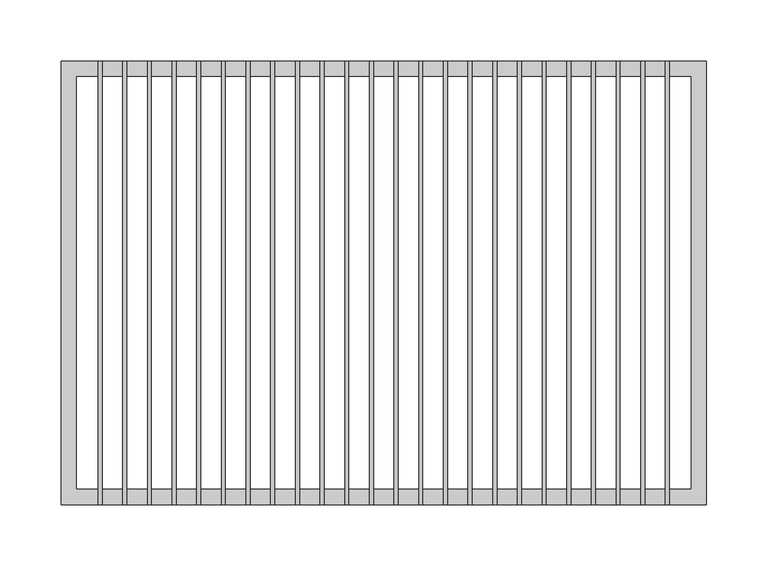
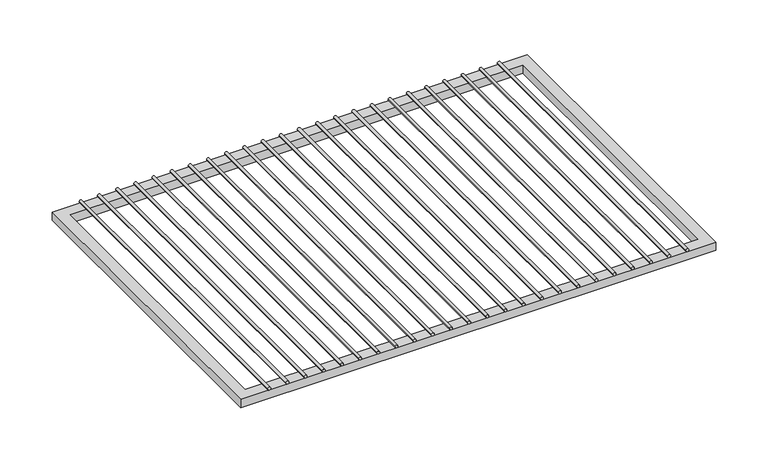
"""IFC4 building model written with IfcOpenShell, lengths in millimetres: furniture geometry, HermanMiller_CoStruc_CO252_CWireShelf : 14D x 20W."""

import ifcopenshell
import ifcopenshell.guid

model = None  # the IFC model being written
_history = None  # IfcOwnerHistory: only IFC2X3 demands one
_inside = {}  # id of a spatial element -> (the spatial element, [elements in it])
_under = {}  # id of a project, library or spatial element -> (it, [spatial elements below it])
_declared = {}  # id of a project -> (the project, [libraries it declares])
_typed = {}  # id of a type object -> (the type object, [elements of that type])
_made_of = {}  # id of a material, layer set ... -> (it, [elements and type objects made of it])


def new_model(schema):
    """Start an empty IFC model of exactly this schema.

    Asked for "IFC4X3", IfcOpenShell would pick the latest addendum, in which some entities
    have other attributes; the version numbers below select the first issue.
    IFC2X3 requires an IfcOwnerHistory on every rooted entity: one is made here for all.
    """
    global model, _history
    if schema == "IFC4X3":
        model = ifcopenshell.file(schema_version=(4, 3, 0, 0))
    else:
        model = ifcopenshell.file(schema=schema)
    _inside.clear()
    _under.clear()
    _declared.clear()
    _typed.clear()
    _made_of.clear()
    _history = None
    if model.schema == "IFC2X3":
        org = make("IfcOrganization", Name="unknown")
        user = make(
            "IfcPersonAndOrganization",
            ThePerson=make("IfcPerson", FamilyName="unknown"),
            TheOrganization=org,
        )
        app = make(
            "IfcApplication",
            ApplicationDeveloper=org,
            Version="unknown",
            ApplicationFullName="unknown",
            ApplicationIdentifier="unknown",
        )
        _history = make(
            "IfcOwnerHistory",
            OwningUser=user,
            OwningApplication=app,
            ChangeAction="ADDED",
            CreationDate=0,
        )
    return model


def make(cls, **values):
    """One entity of the class cls with the attributes given. An attribute that is None is left unset."""
    return model.create_entity(
        cls, **{name: value for name, value in values.items() if value is not None}
    )


def rooted(cls, **values):
    """An entity with a GlobalId (a new one), such as an element, a storey or a relation."""
    return make(cls, GlobalId=ifcopenshell.guid.new(), OwnerHistory=_history, **values)


def si_unit(unit_type, name, prefix=None):
    """IfcSIUnit, for example si_unit("LENGTHUNIT", "METRE", prefix="MILLI")."""
    return make("IfcSIUnit", UnitType=unit_type, Prefix=prefix, Name=name)


def assignment(units):
    """IfcUnitAssignment: the units of a project."""
    return None if units is None else make("IfcUnitAssignment", Units=units)


def point(xyz):
    """IfcCartesianPoint."""
    return None if xyz is None else make("IfcCartesianPoint", Coordinates=xyz)


def direction(xyz):
    """IfcDirection."""
    return None if xyz is None else make("IfcDirection", DirectionRatios=xyz)


def frame(location, z_axis=None, x_axis=None):
    """IfcAxis2Placement3D, a coordinate frame: its origin and axes. An axis left out is left unset."""
    return make(
        "IfcAxis2Placement3D",
        Location=point(location),
        Axis=direction(z_axis),
        RefDirection=direction(x_axis),
    )


def frame_2d(location, x_axis=None):
    """IfcAxis2Placement2D, a coordinate frame in the plane: its origin and x axis."""
    return make(
        "IfcAxis2Placement2D", Location=point(location), RefDirection=direction(x_axis)
    )


def origin():
    """The frame at (0, 0, 0) with its axes left unset."""
    return frame((0.0, 0.0, 0.0))


def place(relative_to, where):
    """IfcLocalPlacement: puts the frame where relative to a parent placement (None: the world)."""
    return make(
        "IfcLocalPlacement", PlacementRelTo=relative_to, RelativePlacement=where
    )


def context(
    kind, dimensions, precision=None, world=None, true_north=None, identifier=None
):
    """IfcGeometricRepresentationContext, for example the 3D "Model" context."""
    return make(
        "IfcGeometricRepresentationContext",
        ContextIdentifier=identifier,
        ContextType=kind,
        CoordinateSpaceDimension=dimensions,
        Precision=precision,
        WorldCoordinateSystem=world,
        TrueNorth=true_north,
    )


def project(units=None, contexts=None):
    """IfcProject with its units and contexts."""
    return rooted(
        "IfcProject",
        Name="project",
        RepresentationContexts=contexts,
        UnitsInContext=assignment(units),
    )


def spatial(cls, under=None, at=None, **own):
    """A site, building, storey or space (cls), placed at a placement, below another one or the project."""
    s = rooted(cls, ObjectPlacement=at, **own)
    if under is not None:
        _under.setdefault(under.id(), (under, []))[1].append(s)
    return s


def polyline(points):
    """IfcPolyline through the points."""
    return make("IfcPolyline", Points=[point(p) for p in points])


def circle_curve(where, radius):
    """IfcCircle in the frame where."""
    return make("IfcCircle", Position=where, Radius=radius)


def trimmed(basis, trim1, trim2, sense, master):
    """IfcTrimmedCurve: the piece of a basis curve between two trims."""
    return make(
        "IfcTrimmedCurve",
        BasisCurve=basis,
        Trim1=trim1,
        Trim2=trim2,
        SenseAgreement=sense,
        MasterRepresentation=master,
    )


def segment(curve, same_sense, transition):
    """IfcCompositeCurveSegment."""
    return make(
        "IfcCompositeCurveSegment",
        Transition=transition,
        SameSense=same_sense,
        ParentCurve=curve,
    )


def composite_curve(segments, self_intersect=None):
    """IfcCompositeCurve: segments joined end to end."""
    return make("IfcCompositeCurve", Segments=segments, SelfIntersect=self_intersect)


def outline(outer, holes=None, kind="AREA"):
    """IfcArbitraryClosedProfileDef: a profile drawn as a closed curve; with holes, ...WithVoids."""
    if holes is None:
        return make("IfcArbitraryClosedProfileDef", ProfileType=kind, OuterCurve=outer)
    return make(
        "IfcArbitraryProfileDefWithVoids",
        ProfileType=kind,
        OuterCurve=outer,
        InnerCurves=holes,
    )


def extrude(swept, where, along, depth):
    """IfcExtrudedAreaSolid: the profile swept, set in the frame where, extruded along a direction by depth."""
    return make(
        "IfcExtrudedAreaSolid",
        SweptArea=swept,
        Position=where,
        ExtrudedDirection=direction(along),
        Depth=depth,
    )


def shape(context_of_items, identifier, shape_type, items):
    """IfcShapeRepresentation: the items that make up one representation, for example the "Body"."""
    return make(
        "IfcShapeRepresentation",
        ContextOfItems=context_of_items,
        RepresentationIdentifier=identifier,
        RepresentationType=shape_type,
        Items=items,
    )


def source(mapping_origin, context_of_items, identifier, shape_type, items):
    """IfcRepresentationMap: a shape defined once, which mapped items show again and again."""
    return make(
        "IfcRepresentationMap",
        MappingOrigin=mapping_origin,
        MappedRepresentation=shape(context_of_items, identifier, shape_type, items),
    )


def transform(
    local_origin,
    x_axis=None,
    y_axis=None,
    z_axis=None,
    scale=None,
    scale2=None,
    scale3=None,
    uniform=True,
):
    """IfcCartesianTransformationOperator3D, or its non-uniform kind. x_axis, y_axis, z_axis: its Axis1, 2, 3."""
    if uniform:
        return make(
            "IfcCartesianTransformationOperator3D",
            Axis1=direction(x_axis),
            Axis2=direction(y_axis),
            LocalOrigin=point(local_origin),
            Scale=scale,
            Axis3=direction(z_axis),
        )
    return make(
        "IfcCartesianTransformationOperator3DnonUniform",
        Axis1=direction(x_axis),
        Axis2=direction(y_axis),
        LocalOrigin=point(local_origin),
        Scale=scale,
        Axis3=direction(z_axis),
        Scale2=scale2,
        Scale3=scale3,
    )


def mapped(mapping_source, mapping_target):
    """IfcMappedItem: shows the shape of a source again, moved by a transform."""
    return make(
        "IfcMappedItem", MappingSource=mapping_source, MappingTarget=mapping_target
    )


def made_of(thing, what):
    """Note that an element or type object is made of a material, layer set ...; save() writes the relation."""
    if what is not None:
        _made_of.setdefault(what.id(), (what, []))[1].append(thing)
    return thing


def element(
    cls,
    number,
    at=None,
    inside=None,
    cuts=None,
    type_object=None,
    material=None,
    context=None,
    identifier="Body",
    shape_type=None,
    held_by="IfcProductDefinitionShape",
    body=None,
    shapes=None,
    **own,
):
    """One element of the class cls, such as IfcWall. Its Tag is "e" and its number.

    at: its placement. inside: the storey or other place that contains it. cuts: it is an
    opening in that element (IfcRelVoidsElement). A single representation is given by context,
    identifier, shape_type and body (its items); several are given by shapes. held_by: the class
    of the entity that holds the representations. save() writes the other relations.
    """
    e = rooted(cls, Tag="e%d" % number, ObjectPlacement=at, **own)
    if body is not None:
        shapes = [shape(context, identifier, shape_type, body)]
    if shapes is not None:
        e.Representation = make(held_by, Representations=shapes)
    if inside is not None:
        _inside.setdefault(inside.id(), (inside, []))[1].append(e)
    if cuts is not None:
        rooted(
            "IfcRelVoidsElement", RelatingBuildingElement=cuts, RelatedOpeningElement=e
        )
    if type_object is not None:
        _typed.setdefault(type_object.id(), (type_object, []))[1].append(e)
    return made_of(e, material)


def aggregate(whole, parts):
    """IfcRelAggregates: a whole, such as a stair, and the parts it consists of."""
    return rooted("IfcRelAggregates", RelatingObject=whole, RelatedObjects=parts)


def save(model, path):
    """Write the relations noted so far, then the file.

    IfcRelAggregates (storeys below a building ...), IfcRelContainedInSpatialStructure (elements
    in a storey), IfcRelDefinesByType, IfcRelAssociatesMaterial and IfcRelDeclares: one each for
    every whole, place, type object, material and project.
    """
    for whole, parts in _under.values():
        aggregate(whole, parts)
    for where, things in _inside.values():
        rooted(
            "IfcRelContainedInSpatialStructure",
            RelatedElements=things,
            RelatingStructure=where,
        )
    for kind, things in _typed.values():
        rooted("IfcRelDefinesByType", RelatedObjects=things, RelatingType=kind)
    for what, things in _made_of.values():
        rooted("IfcRelAssociatesMaterial", RelatedObjects=things, RelatingMaterial=what)
    for by, libraries in _declared.values():
        rooted("IfcRelDeclares", RelatingContext=by, RelatedDefinitions=libraries)
    model.write(path)


def furniture_14b667b5(model_context):
    return source(origin(), model_context, "Body", "SweptSolid", [
        extrude(outline(composite_curve([segment(trimmed(circle_curve(frame_2d((1236.6625, -211.6206522)), 1.5875), [point((1236.6625, -213.2081522))], [point((1236.6625, -210.0331522))], False, "CARTESIAN"), True, "CONTINUOUS"), segment(trimmed(circle_curve(frame_2d((1236.6625, -211.6206522)), 1.5875), [point((1236.6625, -210.0331522))], [point((1236.6625, -213.2081522))], False, "CARTESIAN"), True, "CONTINUOUS")], self_intersect=False)), frame((0.0, -180.975, 0.0), z_axis=(0.0, 1.0, 0.0), x_axis=(0.0, 0.0, 1.0)), (0.0, 0.0, 1.0), 361.95),
        extrude(outline(composite_curve([segment(trimmed(circle_curve(frame_2d((1236.6625, -191.4663043)), 1.5875), [point((1236.6625, -193.0538043))], [point((1236.6625, -189.8788043))], False, "CARTESIAN"), True, "CONTINUOUS"), segment(trimmed(circle_curve(frame_2d((1236.6625, -191.4663043)), 1.5875), [point((1236.6625, -189.8788043))], [point((1236.6625, -193.0538043))], False, "CARTESIAN"), True, "CONTINUOUS")], self_intersect=False)), frame((0.0, -180.975, 0.0), z_axis=(0.0, 1.0, 0.0), x_axis=(0.0, 0.0, 1.0)), (0.0, 0.0, 1.0), 361.95),
        extrude(outline(composite_curve([segment(trimmed(circle_curve(frame_2d((1236.6625, -171.3119565)), 1.5875), [point((1236.6625, -172.8994565))], [point((1236.6625, -169.7244565))], False, "CARTESIAN"), True, "CONTINUOUS"), segment(trimmed(circle_curve(frame_2d((1236.6625, -171.3119565)), 1.5875), [point((1236.6625, -169.7244565))], [point((1236.6625, -172.8994565))], False, "CARTESIAN"), True, "CONTINUOUS")], self_intersect=False)), frame((0.0, -180.975, 0.0), z_axis=(0.0, 1.0, 0.0), x_axis=(0.0, 0.0, 1.0)), (0.0, 0.0, 1.0), 361.95),
        extrude(outline(composite_curve([segment(trimmed(circle_curve(frame_2d((1236.6625, -151.1576087)), 1.5875), [point((1236.6625, -152.7451087))], [point((1236.6625, -149.5701087))], False, "CARTESIAN"), True, "CONTINUOUS"), segment(trimmed(circle_curve(frame_2d((1236.6625, -151.1576087)), 1.5875), [point((1236.6625, -149.5701087))], [point((1236.6625, -152.7451087))], False, "CARTESIAN"), True, "CONTINUOUS")], self_intersect=False)), frame((0.0, -180.975, 0.0), z_axis=(0.0, 1.0, 0.0), x_axis=(0.0, 0.0, 1.0)), (0.0, 0.0, 1.0), 361.95),
        extrude(outline(composite_curve([segment(trimmed(circle_curve(frame_2d((1236.6625, -131.0032609)), 1.5875), [point((1236.6625, -132.5907609))], [point((1236.6625, -129.4157609))], False, "CARTESIAN"), True, "CONTINUOUS"), segment(trimmed(circle_curve(frame_2d((1236.6625, -131.0032609)), 1.5875), [point((1236.6625, -129.4157609))], [point((1236.6625, -132.5907609))], False, "CARTESIAN"), True, "CONTINUOUS")], self_intersect=False)), frame((0.0, -180.975, 0.0), z_axis=(0.0, 1.0, 0.0), x_axis=(0.0, 0.0, 1.0)), (0.0, 0.0, 1.0), 361.95),
        extrude(outline(composite_curve([segment(trimmed(circle_curve(frame_2d((1236.6625, -110.848913)), 1.5875), [point((1236.6625, -112.436413))], [point((1236.6625, -109.261413))], False, "CARTESIAN"), True, "CONTINUOUS"), segment(trimmed(circle_curve(frame_2d((1236.6625, -110.848913)), 1.5875), [point((1236.6625, -109.261413))], [point((1236.6625, -112.436413))], False, "CARTESIAN"), True, "CONTINUOUS")], self_intersect=False)), frame((0.0, -180.975, 0.0), z_axis=(0.0, 1.0, 0.0), x_axis=(0.0, 0.0, 1.0)), (0.0, 0.0, 1.0), 361.95),
        extrude(outline(composite_curve([segment(trimmed(circle_curve(frame_2d((1236.6625, -90.6945652)), 1.5875), [point((1236.6625, -92.2820652))], [point((1236.6625, -89.1070652))], False, "CARTESIAN"), True, "CONTINUOUS"), segment(trimmed(circle_curve(frame_2d((1236.6625, -90.6945652)), 1.5875), [point((1236.6625, -89.1070652))], [point((1236.6625, -92.2820652))], False, "CARTESIAN"), True, "CONTINUOUS")], self_intersect=False)), frame((0.0, -180.975, 0.0), z_axis=(0.0, 1.0, 0.0), x_axis=(0.0, 0.0, 1.0)), (0.0, 0.0, 1.0), 361.95),
        extrude(outline(composite_curve([segment(trimmed(circle_curve(frame_2d((1236.6625, -70.5402174)), 1.5875), [point((1236.6625, -72.1277174))], [point((1236.6625, -68.9527174))], False, "CARTESIAN"), True, "CONTINUOUS"), segment(trimmed(circle_curve(frame_2d((1236.6625, -70.5402174)), 1.5875), [point((1236.6625, -68.9527174))], [point((1236.6625, -72.1277174))], False, "CARTESIAN"), True, "CONTINUOUS")], self_intersect=False)), frame((0.0, -180.975, 0.0), z_axis=(0.0, 1.0, 0.0), x_axis=(0.0, 0.0, 1.0)), (0.0, 0.0, 1.0), 361.95),
        extrude(outline(composite_curve([segment(trimmed(circle_curve(frame_2d((1236.6625, -50.3858696)), 1.5875), [point((1236.6625, -51.9733696))], [point((1236.6625, -48.7983696))], False, "CARTESIAN"), True, "CONTINUOUS"), segment(trimmed(circle_curve(frame_2d((1236.6625, -50.3858696)), 1.5875), [point((1236.6625, -48.7983696))], [point((1236.6625, -51.9733696))], False, "CARTESIAN"), True, "CONTINUOUS")], self_intersect=False)), frame((0.0, -180.975, 0.0), z_axis=(0.0, 1.0, 0.0), x_axis=(0.0, 0.0, 1.0)), (0.0, 0.0, 1.0), 361.95),
        extrude(outline(composite_curve([segment(trimmed(circle_curve(frame_2d((1236.6625, -30.2315217)), 1.5875), [point((1236.6625, -31.8190217))], [point((1236.6625, -28.6440217))], False, "CARTESIAN"), True, "CONTINUOUS"), segment(trimmed(circle_curve(frame_2d((1236.6625, -30.2315217)), 1.5875), [point((1236.6625, -28.6440217))], [point((1236.6625, -31.8190217))], False, "CARTESIAN"), True, "CONTINUOUS")], self_intersect=False)), frame((0.0, -180.975, 0.0), z_axis=(0.0, 1.0, 0.0), x_axis=(0.0, 0.0, 1.0)), (0.0, 0.0, 1.0), 361.95),
        extrude(outline(composite_curve([segment(trimmed(circle_curve(frame_2d((1236.6625, -10.0771739)), 1.5875), [point((1236.6625, -11.6646739))], [point((1236.6625, -8.4896739))], False, "CARTESIAN"), True, "CONTINUOUS"), segment(trimmed(circle_curve(frame_2d((1236.6625, -10.0771739)), 1.5875), [point((1236.6625, -8.4896739))], [point((1236.6625, -11.6646739))], False, "CARTESIAN"), True, "CONTINUOUS")], self_intersect=False)), frame((0.0, -180.975, 0.0), z_axis=(0.0, 1.0, 0.0), x_axis=(0.0, 0.0, 1.0)), (0.0, 0.0, 1.0), 361.95),
        extrude(outline(composite_curve([segment(trimmed(circle_curve(frame_2d((1236.6625, 10.0771739)), 1.5875), [point((1236.6625, 8.4896739))], [point((1236.6625, 11.6646739))], False, "CARTESIAN"), True, "CONTINUOUS"), segment(trimmed(circle_curve(frame_2d((1236.6625, 10.0771739)), 1.5875), [point((1236.6625, 11.6646739))], [point((1236.6625, 8.4896739))], False, "CARTESIAN"), True, "CONTINUOUS")], self_intersect=False)), frame((0.0, -180.975, 0.0), z_axis=(0.0, 1.0, 0.0), x_axis=(0.0, 0.0, 1.0)), (0.0, 0.0, 1.0), 361.95),
        extrude(outline(composite_curve([segment(trimmed(circle_curve(frame_2d((1236.6625, 30.2315217)), 1.5875), [point((1236.6625, 28.6440217))], [point((1236.6625, 31.8190217))], False, "CARTESIAN"), True, "CONTINUOUS"), segment(trimmed(circle_curve(frame_2d((1236.6625, 30.2315217)), 1.5875), [point((1236.6625, 31.8190217))], [point((1236.6625, 28.6440217))], False, "CARTESIAN"), True, "CONTINUOUS")], self_intersect=False)), frame((0.0, -180.975, 0.0), z_axis=(0.0, 1.0, 0.0), x_axis=(0.0, 0.0, 1.0)), (0.0, 0.0, 1.0), 361.95),
        extrude(outline(composite_curve([segment(trimmed(circle_curve(frame_2d((1236.6625, 50.3858696)), 1.5875), [point((1236.6625, 48.7983696))], [point((1236.6625, 51.9733696))], False, "CARTESIAN"), True, "CONTINUOUS"), segment(trimmed(circle_curve(frame_2d((1236.6625, 50.3858696)), 1.5875), [point((1236.6625, 51.9733696))], [point((1236.6625, 48.7983696))], False, "CARTESIAN"), True, "CONTINUOUS")], self_intersect=False)), frame((0.0, -180.975, 0.0), z_axis=(0.0, 1.0, 0.0), x_axis=(0.0, 0.0, 1.0)), (0.0, 0.0, 1.0), 361.95),
        extrude(outline(composite_curve([segment(trimmed(circle_curve(frame_2d((1236.6625, 70.5402174)), 1.5875), [point((1236.6625, 68.9527174))], [point((1236.6625, 72.1277174))], False, "CARTESIAN"), True, "CONTINUOUS"), segment(trimmed(circle_curve(frame_2d((1236.6625, 70.5402174)), 1.5875), [point((1236.6625, 72.1277174))], [point((1236.6625, 68.9527174))], False, "CARTESIAN"), True, "CONTINUOUS")], self_intersect=False)), frame((0.0, -180.975, 0.0), z_axis=(0.0, 1.0, 0.0), x_axis=(0.0, 0.0, 1.0)), (0.0, 0.0, 1.0), 361.95),
        extrude(outline(composite_curve([segment(trimmed(circle_curve(frame_2d((1236.6625, 90.6945652)), 1.5875), [point((1236.6625, 89.1070652))], [point((1236.6625, 92.2820652))], False, "CARTESIAN"), True, "CONTINUOUS"), segment(trimmed(circle_curve(frame_2d((1236.6625, 90.6945652)), 1.5875), [point((1236.6625, 92.2820652))], [point((1236.6625, 89.1070652))], False, "CARTESIAN"), True, "CONTINUOUS")], self_intersect=False)), frame((0.0, -180.975, 0.0), z_axis=(0.0, 1.0, 0.0), x_axis=(0.0, 0.0, 1.0)), (0.0, 0.0, 1.0), 361.95),
        extrude(outline(composite_curve([segment(trimmed(circle_curve(frame_2d((1236.6625, 110.848913)), 1.5875), [point((1236.6625, 109.261413))], [point((1236.6625, 112.436413))], False, "CARTESIAN"), True, "CONTINUOUS"), segment(trimmed(circle_curve(frame_2d((1236.6625, 110.848913)), 1.5875), [point((1236.6625, 112.436413))], [point((1236.6625, 109.261413))], False, "CARTESIAN"), True, "CONTINUOUS")], self_intersect=False)), frame((0.0, -180.975, 0.0), z_axis=(0.0, 1.0, 0.0), x_axis=(0.0, 0.0, 1.0)), (0.0, 0.0, 1.0), 361.95),
        extrude(outline(composite_curve([segment(trimmed(circle_curve(frame_2d((1236.6625, 131.0032609)), 1.5875), [point((1236.6625, 129.4157609))], [point((1236.6625, 132.5907609))], False, "CARTESIAN"), True, "CONTINUOUS"), segment(trimmed(circle_curve(frame_2d((1236.6625, 131.0032609)), 1.5875), [point((1236.6625, 132.5907609))], [point((1236.6625, 129.4157609))], False, "CARTESIAN"), True, "CONTINUOUS")], self_intersect=False)), frame((0.0, -180.975, 0.0), z_axis=(0.0, 1.0, 0.0), x_axis=(0.0, 0.0, 1.0)), (0.0, 0.0, 1.0), 361.95),
        extrude(outline(composite_curve([segment(trimmed(circle_curve(frame_2d((1236.6625, 151.1576087)), 1.5875), [point((1236.6625, 149.5701087))], [point((1236.6625, 152.7451087))], False, "CARTESIAN"), True, "CONTINUOUS"), segment(trimmed(circle_curve(frame_2d((1236.6625, 151.1576087)), 1.5875), [point((1236.6625, 152.7451087))], [point((1236.6625, 149.5701087))], False, "CARTESIAN"), True, "CONTINUOUS")], self_intersect=False)), frame((0.0, -180.975, 0.0), z_axis=(0.0, 1.0, 0.0), x_axis=(0.0, 0.0, 1.0)), (0.0, 0.0, 1.0), 361.95),
        extrude(outline(composite_curve([segment(trimmed(circle_curve(frame_2d((1236.6625, 171.3119565)), 1.5875), [point((1236.6625, 169.7244565))], [point((1236.6625, 172.8994565))], False, "CARTESIAN"), True, "CONTINUOUS"), segment(trimmed(circle_curve(frame_2d((1236.6625, 171.3119565)), 1.5875), [point((1236.6625, 172.8994565))], [point((1236.6625, 169.7244565))], False, "CARTESIAN"), True, "CONTINUOUS")], self_intersect=False)), frame((0.0, -180.975, 0.0), z_axis=(0.0, 1.0, 0.0), x_axis=(0.0, 0.0, 1.0)), (0.0, 0.0, 1.0), 361.95),
        extrude(outline(composite_curve([segment(trimmed(circle_curve(frame_2d((1236.6625, 191.4663043)), 1.5875), [point((1236.6625, 189.8788043))], [point((1236.6625, 193.0538043))], False, "CARTESIAN"), True, "CONTINUOUS"), segment(trimmed(circle_curve(frame_2d((1236.6625, 191.4663043)), 1.5875), [point((1236.6625, 193.0538043))], [point((1236.6625, 189.8788043))], False, "CARTESIAN"), True, "CONTINUOUS")], self_intersect=False)), frame((0.0, -180.975, 0.0), z_axis=(0.0, 1.0, 0.0), x_axis=(0.0, 0.0, 1.0)), (0.0, 0.0, 1.0), 361.95),
        extrude(outline(composite_curve([segment(trimmed(circle_curve(frame_2d((1236.6625, 211.6206522)), 1.5875), [point((1236.6625, 210.0331522))], [point((1236.6625, 213.2081522))], False, "CARTESIAN"), True, "CONTINUOUS"), segment(trimmed(circle_curve(frame_2d((1236.6625, 211.6206522)), 1.5875), [point((1236.6625, 213.2081522))], [point((1236.6625, 210.0331522))], False, "CARTESIAN"), True, "CONTINUOUS")], self_intersect=False)), frame((0.0, -180.975, 0.0), z_axis=(0.0, 1.0, 0.0), x_axis=(0.0, 0.0, 1.0)), (0.0, 0.0, 1.0), 361.95),
        extrude(outline(composite_curve([segment(trimmed(circle_curve(frame_2d((1236.6625, -231.775)), 1.5875), [point((1236.6625, -233.3625))], [point((1236.6625, -230.1875))], False, "CARTESIAN"), True, "CONTINUOUS"), segment(trimmed(circle_curve(frame_2d((1236.6625, -231.775)), 1.5875), [point((1236.6625, -230.1875))], [point((1236.6625, -233.3625))], False, "CARTESIAN"), True, "CONTINUOUS")], self_intersect=False)), frame((0.0, -180.975, 0.0), z_axis=(0.0, 1.0, 0.0), x_axis=(0.0, 0.0, 1.0)), (0.0, 0.0, 1.0), 361.95),
        extrude(outline(composite_curve([segment(trimmed(circle_curve(frame_2d((1236.6625, 231.775)), 1.5875), [point((1236.6625, 230.1875))], [point((1236.6625, 233.3625))], False, "CARTESIAN"), True, "CONTINUOUS"), segment(trimmed(circle_curve(frame_2d((1236.6625, 231.775)), 1.5875), [point((1236.6625, 233.3625))], [point((1236.6625, 230.1875))], False, "CARTESIAN"), True, "CONTINUOUS")], self_intersect=False)), frame((0.0, -180.975, 0.0), z_axis=(0.0, 1.0, 0.0), x_axis=(0.0, 0.0, 1.0)), (0.0, 0.0, 1.0), 361.95),
        extrude(outline(polyline([(-263.525, -180.975), (-263.525, 180.975), (263.525, 180.975), (263.525, -180.975), (-263.525, -180.975)]), holes=[polyline([(-250.825, -168.275), (250.825, -168.275), (250.825, 168.275), (-250.825, 168.275), (-250.825, -168.275)])]), frame((0.0, 0.0, 1225.55), z_axis=(0.0, 0.0, 1.0), x_axis=(1.0, 0.0, 0.0)), (0.0, 0.0, 1.0), 9.525),
    ])


if __name__ == "__main__":
    model = new_model("IFC4")
    model_context = context("Model", 3, world=origin())
    ifc_project = project(units=[si_unit("LENGTHUNIT", "METRE", prefix="MILLI")], contexts=[model_context])
    site = spatial("IfcSite", under=ifc_project)
    building = spatial("IfcBuilding", under=site)
    placement = place(None, origin())
    furniture_shape = furniture_14b667b5(model_context)
    element("IfcFurniture", 1, ObjectType="HermanMiller_CoStruc_CO252_CWireShelf : 14D x 20W", at=placement, inside=building, context=model_context, shape_type="MappedRepresentation", body=[
        mapped(furniture_shape, transform((0.0, 0.0, 0.0), x_axis=(1.0, 0.0, 0.0), y_axis=(0.0, 1.0, 0.0), z_axis=(0.0, 0.0, 1.0))),
    ])
    save(model, "model.ifc")
